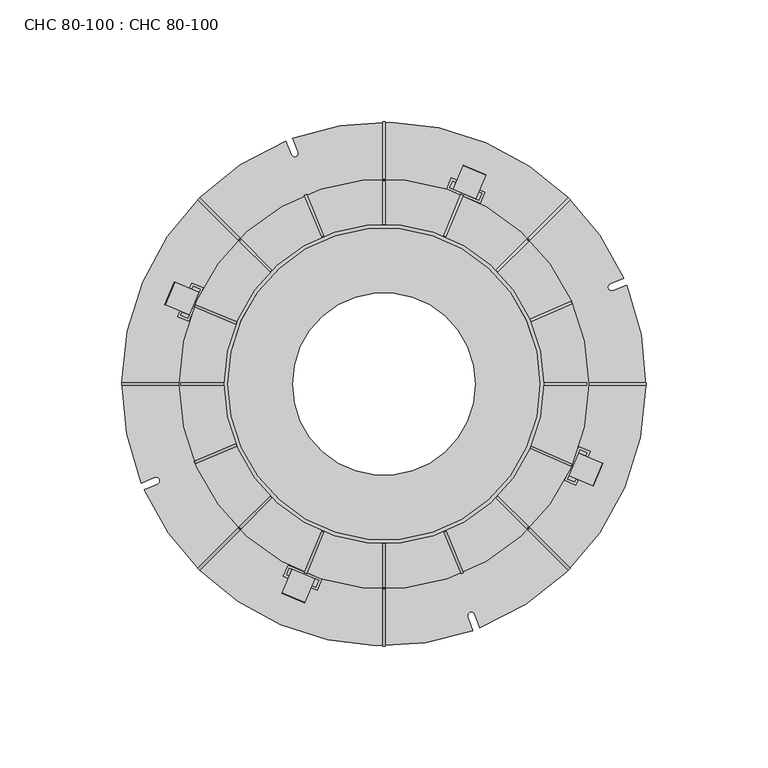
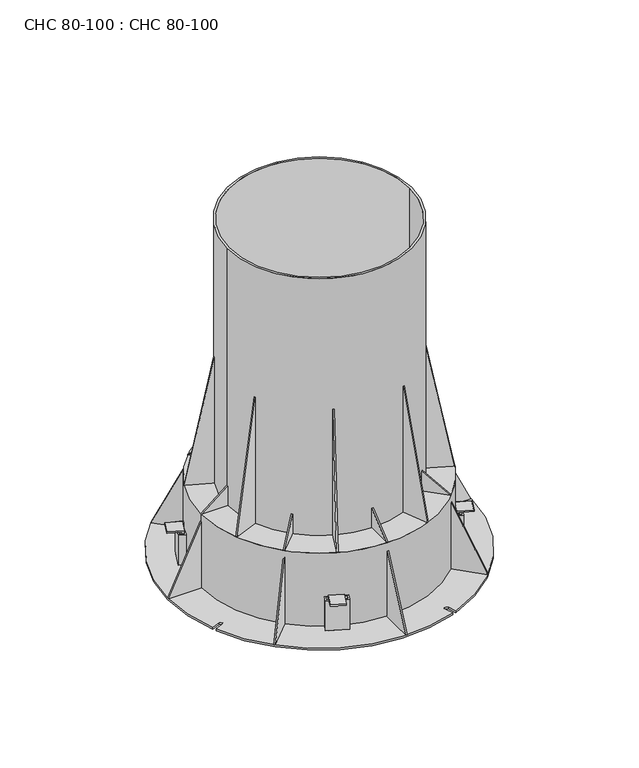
"""IFC4 building model written with IfcOpenShell, lengths in millimetres: proxy geometry, CHC 80-100 : CHC 80-100."""

import ifcopenshell
import ifcopenshell.guid

model = None  # the IFC model being written
_history = None  # IfcOwnerHistory: only IFC2X3 demands one
_inside = {}  # id of a spatial element -> (the spatial element, [elements in it])
_under = {}  # id of a project, library or spatial element -> (it, [spatial elements below it])
_declared = {}  # id of a project -> (the project, [libraries it declares])
_typed = {}  # id of a type object -> (the type object, [elements of that type])
_made_of = {}  # id of a material, layer set ... -> (it, [elements and type objects made of it])


def new_model(schema):
    """Start an empty IFC model of exactly this schema.

    Asked for "IFC4X3", IfcOpenShell would pick the latest addendum, in which some entities
    have other attributes; the version numbers below select the first issue.
    IFC2X3 requires an IfcOwnerHistory on every rooted entity: one is made here for all.
    """
    global model, _history
    if schema == "IFC4X3":
        model = ifcopenshell.file(schema_version=(4, 3, 0, 0))
    else:
        model = ifcopenshell.file(schema=schema)
    _inside.clear()
    _under.clear()
    _declared.clear()
    _typed.clear()
    _made_of.clear()
    _history = None
    if model.schema == "IFC2X3":
        org = make("IfcOrganization", Name="unknown")
        user = make(
            "IfcPersonAndOrganization",
            ThePerson=make("IfcPerson", FamilyName="unknown"),
            TheOrganization=org,
        )
        app = make(
            "IfcApplication",
            ApplicationDeveloper=org,
            Version="unknown",
            ApplicationFullName="unknown",
            ApplicationIdentifier="unknown",
        )
        _history = make(
            "IfcOwnerHistory",
            OwningUser=user,
            OwningApplication=app,
            ChangeAction="ADDED",
            CreationDate=0,
        )
    return model


def make(cls, **values):
    """One entity of the class cls with the attributes given. An attribute that is None is left unset."""
    return model.create_entity(
        cls, **{name: value for name, value in values.items() if value is not None}
    )


def rooted(cls, **values):
    """An entity with a GlobalId (a new one), such as an element, a storey or a relation."""
    return make(cls, GlobalId=ifcopenshell.guid.new(), OwnerHistory=_history, **values)


def si_unit(unit_type, name, prefix=None):
    """IfcSIUnit, for example si_unit("LENGTHUNIT", "METRE", prefix="MILLI")."""
    return make("IfcSIUnit", UnitType=unit_type, Prefix=prefix, Name=name)


def assignment(units):
    """IfcUnitAssignment: the units of a project."""
    return None if units is None else make("IfcUnitAssignment", Units=units)


def point(xyz):
    """IfcCartesianPoint."""
    return None if xyz is None else make("IfcCartesianPoint", Coordinates=xyz)


def direction(xyz):
    """IfcDirection."""
    return None if xyz is None else make("IfcDirection", DirectionRatios=xyz)


def frame(location, z_axis=None, x_axis=None):
    """IfcAxis2Placement3D, a coordinate frame: its origin and axes. An axis left out is left unset."""
    return make(
        "IfcAxis2Placement3D",
        Location=point(location),
        Axis=direction(z_axis),
        RefDirection=direction(x_axis),
    )


def frame_2d(location, x_axis=None):
    """IfcAxis2Placement2D, a coordinate frame in the plane: its origin and x axis."""
    return make(
        "IfcAxis2Placement2D", Location=point(location), RefDirection=direction(x_axis)
    )


def origin():
    """The frame at (0, 0, 0) with its axes left unset."""
    return frame((0.0, 0.0, 0.0))


def origin_with_axes():
    """The frame at (0, 0, 0) with the z axis (0, 0, 1) and the x axis (1, 0, 0) written out."""
    return frame((0.0, 0.0, 0.0), z_axis=(0.0, 0.0, 1.0), x_axis=(1.0, 0.0, 0.0))


def origin_2d():
    """The frame at (0, 0) in the plane with its x axis left unset."""
    return frame_2d((0.0, 0.0))


def place(relative_to, where):
    """IfcLocalPlacement: puts the frame where relative to a parent placement (None: the world)."""
    return make(
        "IfcLocalPlacement", PlacementRelTo=relative_to, RelativePlacement=where
    )


def context(
    kind, dimensions, precision=None, world=None, true_north=None, identifier=None
):
    """IfcGeometricRepresentationContext, for example the 3D "Model" context."""
    return make(
        "IfcGeometricRepresentationContext",
        ContextIdentifier=identifier,
        ContextType=kind,
        CoordinateSpaceDimension=dimensions,
        Precision=precision,
        WorldCoordinateSystem=world,
        TrueNorth=true_north,
    )


def project(units=None, contexts=None):
    """IfcProject with its units and contexts."""
    return rooted(
        "IfcProject",
        Name="project",
        RepresentationContexts=contexts,
        UnitsInContext=assignment(units),
    )


def spatial(cls, under=None, at=None, **own):
    """A site, building, storey or space (cls), placed at a placement, below another one or the project."""
    s = rooted(cls, ObjectPlacement=at, **own)
    if under is not None:
        _under.setdefault(under.id(), (under, []))[1].append(s)
    return s


def polyline(points):
    """IfcPolyline through the points."""
    return make("IfcPolyline", Points=[point(p) for p in points])


def circle_curve(where, radius):
    """IfcCircle in the frame where."""
    return make("IfcCircle", Position=where, Radius=radius)


def ellipse_curve(where, semi_axis1, semi_axis2):
    """IfcEllipse in the frame where."""
    return make(
        "IfcEllipse", Position=where, SemiAxis1=semi_axis1, SemiAxis2=semi_axis2
    )


def trimmed(basis, trim1, trim2, sense, master):
    """IfcTrimmedCurve: the piece of a basis curve between two trims."""
    return make(
        "IfcTrimmedCurve",
        BasisCurve=basis,
        Trim1=trim1,
        Trim2=trim2,
        SenseAgreement=sense,
        MasterRepresentation=master,
    )


def segment(curve, same_sense, transition):
    """IfcCompositeCurveSegment."""
    return make(
        "IfcCompositeCurveSegment",
        Transition=transition,
        SameSense=same_sense,
        ParentCurve=curve,
    )


def composite_curve(segments, self_intersect=None):
    """IfcCompositeCurve: segments joined end to end."""
    return make("IfcCompositeCurve", Segments=segments, SelfIntersect=self_intersect)


def outline(outer, holes=None, kind="AREA"):
    """IfcArbitraryClosedProfileDef: a profile drawn as a closed curve; with holes, ...WithVoids."""
    if holes is None:
        return make("IfcArbitraryClosedProfileDef", ProfileType=kind, OuterCurve=outer)
    return make(
        "IfcArbitraryProfileDefWithVoids",
        ProfileType=kind,
        OuterCurve=outer,
        InnerCurves=holes,
    )


def extrude(swept, where, along, depth):
    """IfcExtrudedAreaSolid: the profile swept, set in the frame where, extruded along a direction by depth."""
    return make(
        "IfcExtrudedAreaSolid",
        SweptArea=swept,
        Position=where,
        ExtrudedDirection=direction(along),
        Depth=depth,
    )


def shape(context_of_items, identifier, shape_type, items):
    """IfcShapeRepresentation: the items that make up one representation, for example the "Body"."""
    return make(
        "IfcShapeRepresentation",
        ContextOfItems=context_of_items,
        RepresentationIdentifier=identifier,
        RepresentationType=shape_type,
        Items=items,
    )


def source(mapping_origin, context_of_items, identifier, shape_type, items):
    """IfcRepresentationMap: a shape defined once, which mapped items show again and again."""
    return make(
        "IfcRepresentationMap",
        MappingOrigin=mapping_origin,
        MappedRepresentation=shape(context_of_items, identifier, shape_type, items),
    )


def transform(
    local_origin,
    x_axis=None,
    y_axis=None,
    z_axis=None,
    scale=None,
    scale2=None,
    scale3=None,
    uniform=True,
):
    """IfcCartesianTransformationOperator3D, or its non-uniform kind. x_axis, y_axis, z_axis: its Axis1, 2, 3."""
    if uniform:
        return make(
            "IfcCartesianTransformationOperator3D",
            Axis1=direction(x_axis),
            Axis2=direction(y_axis),
            LocalOrigin=point(local_origin),
            Scale=scale,
            Axis3=direction(z_axis),
        )
    return make(
        "IfcCartesianTransformationOperator3DnonUniform",
        Axis1=direction(x_axis),
        Axis2=direction(y_axis),
        LocalOrigin=point(local_origin),
        Scale=scale,
        Axis3=direction(z_axis),
        Scale2=scale2,
        Scale3=scale3,
    )


def mapped(mapping_source, mapping_target):
    """IfcMappedItem: shows the shape of a source again, moved by a transform."""
    return make(
        "IfcMappedItem", MappingSource=mapping_source, MappingTarget=mapping_target
    )


def made_of(thing, what):
    """Note that an element or type object is made of a material, layer set ...; save() writes the relation."""
    if what is not None:
        _made_of.setdefault(what.id(), (what, []))[1].append(thing)
    return thing


def element(
    cls,
    number,
    at=None,
    inside=None,
    cuts=None,
    type_object=None,
    material=None,
    context=None,
    identifier="Body",
    shape_type=None,
    held_by="IfcProductDefinitionShape",
    body=None,
    shapes=None,
    **own,
):
    """One element of the class cls, such as IfcWall. Its Tag is "e" and its number.

    at: its placement. inside: the storey or other place that contains it. cuts: it is an
    opening in that element (IfcRelVoidsElement). A single representation is given by context,
    identifier, shape_type and body (its items); several are given by shapes. held_by: the class
    of the entity that holds the representations. save() writes the other relations.
    """
    e = rooted(cls, Tag="e%d" % number, ObjectPlacement=at, **own)
    if body is not None:
        shapes = [shape(context, identifier, shape_type, body)]
    if shapes is not None:
        e.Representation = make(held_by, Representations=shapes)
    if inside is not None:
        _inside.setdefault(inside.id(), (inside, []))[1].append(e)
    if cuts is not None:
        rooted(
            "IfcRelVoidsElement", RelatingBuildingElement=cuts, RelatedOpeningElement=e
        )
    if type_object is not None:
        _typed.setdefault(type_object.id(), (type_object, []))[1].append(e)
    return made_of(e, material)


def aggregate(whole, parts):
    """IfcRelAggregates: a whole, such as a stair, and the parts it consists of."""
    return rooted("IfcRelAggregates", RelatingObject=whole, RelatedObjects=parts)


def save(model, path):
    """Write the relations noted so far, then the file.

    IfcRelAggregates (storeys below a building ...), IfcRelContainedInSpatialStructure (elements
    in a storey), IfcRelDefinesByType, IfcRelAssociatesMaterial and IfcRelDeclares: one each for
    every whole, place, type object, material and project.
    """
    for whole, parts in _under.values():
        aggregate(whole, parts)
    for where, things in _inside.values():
        rooted(
            "IfcRelContainedInSpatialStructure",
            RelatedElements=things,
            RelatingStructure=where,
        )
    for kind, things in _typed.values():
        rooted("IfcRelDefinesByType", RelatedObjects=things, RelatingType=kind)
    for what, things in _made_of.values():
        rooted("IfcRelAssociatesMaterial", RelatedObjects=things, RelatingMaterial=what)
    for by, libraries in _declared.values():
        rooted("IfcRelDeclares", RelatingContext=by, RelatedDefinitions=libraries)
    model.write(path)


def plane_surface(at):
    """IfcPlane: the flat surface through the origin of the frame at, square to its z axis."""
    return make("IfcPlane", Position=at)


def extruded_surface(curve, direction_of_extrusion, depth):
    """IfcSurfaceOfLinearExtrusion: the curve pushed along a direction by depth."""
    return make(
        "IfcSurfaceOfLinearExtrusion",
        SweptCurve=make("IfcArbitraryOpenProfileDef", ProfileType="CURVE", Curve=curve),
        ExtrudedDirection=direction(direction_of_extrusion),
        Depth=depth,
    )


def advanced_brep(points, edges, surfaces, faces):
    """IfcAdvancedBrep: a solid bounded by faces that lie on surfaces and meet in shared edges.

    An edge is (start, end): straight between two places in points (the first is 0);
    or (start, end, curve); or (start, end, curve, False) where it runs against its curve.
    A face is (place in surfaces, loops), or (place, loops, False) where it looks against
    its surface's normal. A loop lists edges by number (the first is 1), with a minus sign
    where the edge is run from its end to its start. The first loop is the outer one.
    """
    corners = [point(p) for p in points]
    vertices = [make("IfcVertexPoint", VertexGeometry=c) for c in corners]
    made = []
    for start, end, *more in edges:
        made.append(
            make(
                "IfcEdgeCurve",
                EdgeStart=vertices[start],
                EdgeEnd=vertices[end],
                EdgeGeometry=more[0] if more else make("IfcPolyline", Points=[corners[start], corners[end]]),
                SameSense=more[1] if len(more) > 1 else True,
            )
        )
    hull = []
    for where, loops, *sense in faces:
        bounds = []
        for j, loop in enumerate(loops):
            ring = [make("IfcOrientedEdge", EdgeElement=made[abs(k) - 1], Orientation=k > 0) for k in loop]
            bounds.append(
                make(
                    "IfcFaceOuterBound" if j == 0 else "IfcFaceBound",
                    Bound=make("IfcEdgeLoop", EdgeList=ring),
                    Orientation=True,
                )
            )
        hull.append(make("IfcAdvancedFace", Bounds=bounds, FaceSurface=surfaces[where], SameSense=sense[0] if sense else True))
    return make("IfcAdvancedBrep", Outer=make("IfcClosedShell", CfsFaces=hull))


def chc_80_100_chc_80_100_d89dd4f8(model_context):
    return source(origin(), model_context, "Body", "SolidModel", [
        extrude(outline(composite_curve([segment(trimmed(circle_curve(origin_2d(), 84.0), [point((-84.0, 0.0))], [point((84.0, 0.0))], False, "CARTESIAN"), True, "CONTINUOUS"), segment(trimmed(circle_curve(origin_2d(), 84.0), [point((84.0, 0.0))], [point((-84.0, 0.0))], False, "CARTESIAN"), True, "CONTINUOUS")], self_intersect=False), holes=[composite_curve([segment(trimmed(circle_curve(origin_2d(), 64.0), [point((-64.0, 0.0))], [point((64.0, 0.0))], True, "CARTESIAN"), True, "CONTINUOUS"), segment(trimmed(circle_curve(origin_2d(), 64.0), [point((64.0, 0.0))], [point((-64.0, 0.0))], True, "CARTESIAN"), True, "CONTINUOUS")], self_intersect=False)]), frame((0.0, 0.0, 1.5), z_axis=(0.0, 0.0, 1.0), x_axis=(1.0, 0.0, 0.0)), (0.0, 0.0, 1.0), 55.0),
        extrude(outline(composite_curve([segment(trimmed(circle_curve(origin_2d(), 61.0), [point((-61.0, 0.0))], [point((61.0, 0.0))], False, "CARTESIAN"), True, "CONTINUOUS"), segment(trimmed(circle_curve(origin_2d(), 61.0), [point((61.0, 0.0))], [point((-61.0, 0.0))], False, "CARTESIAN"), True, "CONTINUOUS")], self_intersect=False), holes=[composite_curve([segment(trimmed(circle_curve(origin_2d(), 47.0), [point((-47.0, 0.0))], [point((47.0, 0.0))], True, "CARTESIAN"), True, "CONTINUOUS"), segment(trimmed(circle_curve(origin_2d(), 47.0), [point((47.0, 0.0))], [point((-47.0, 0.0))], True, "CARTESIAN"), True, "CONTINUOUS")], self_intersect=False)]), frame((0.0, 0.0, 1.5), z_axis=(0.0, 0.0, 1.0), x_axis=(1.0, 0.0, 0.0)), (0.0, 0.0, 1.0), 37.5),
        extrude(outline(composite_curve([segment(trimmed(circle_curve(origin_2d(), 80.0), [point((71.5960711, -35.693173))], [point((-26.6217842, -75.4405766))], False, "CARTESIAN"), True, "CONTINUOUS"), segment(polyline([(-26.6217842, -75.4405766), (-29.6268561, -82.5495981), (-38.8377329, -78.6560458), (-35.8254529, -71.5299722)]), True, "CONTINUOUS"), segment(trimmed(circle_curve(origin_2d(), 80.0), [point((-35.8254529, -71.5299722))], [point((-75.4862527, 26.4919924))], False, "CARTESIAN"), True, "CONTINUOUS"), segment(polyline([(-75.4862527, 26.4919924), (-82.6150756, 29.5065376), (-78.7203143, 38.7169032), (-71.5914914, 35.702358)]), True, "CONTINUOUS"), segment(trimmed(circle_curve(origin_2d(), 80.0), [point((-71.5914914, 35.702358))], [point((26.8983583, 75.3424072))], False, "CARTESIAN"), True, "CONTINUOUS"), segment(polyline([(26.8983583, 75.3424072), (29.4961351, 82.6187902), (38.706991, 78.7251887), (35.6933434, 71.5959862)]), True, "CONTINUOUS"), segment(trimmed(circle_curve(origin_2d(), 80.0), [point((35.6933434, 71.5959862))], [point((75.4896508, -26.4823078))], False, "CARTESIAN"), True, "CONTINUOUS"), segment(polyline([(75.4896508, -26.4823078), (82.5970475, -29.4867177), (78.7034678, -38.6975829), (71.5960711, -35.693173)]), True, "CONTINUOUS")], self_intersect=False), holes=[composite_curve([segment(trimmed(circle_curve(origin_2d(), 59.0), [point((-59.0, 0.0))], [point((59.0, 0.0))], True, "CARTESIAN"), True, "CONTINUOUS"), segment(trimmed(circle_curve(origin_2d(), 59.0), [point((59.0, 0.0))], [point((-59.0, 0.0))], True, "CARTESIAN"), True, "CONTINUOUS")], self_intersect=False)]), frame((0.0, 0.0, 0.5), z_axis=(0.0, 0.0, 1.0), x_axis=(1.0, 0.0, 0.0)), (0.0, 0.0, 1.0), 1.0),
        extrude(outline(polyline([(51.5, -84.0), (1.5, -107.5), (1.5, -84.0), (51.5, -84.0)])), frame((0.0, -0.5, 0.0), z_axis=(0.0, 1.0, 0.0), x_axis=(0.0, 0.0, 1.0)), (0.0, 0.0, 1.0), 1.0),
        extrude(outline(polyline([(-55.2471719, -1e-07), (0.0, 0.0), (-9.9959868, -21.268057), (-55.2471719, -1e-07)])), frame((-76.3675324, 75.6604256, 1.5), z_axis=(0.7071067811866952, 0.7071067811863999, 0.0), x_axis=(-0.30077574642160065, 0.30077574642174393, -0.9050237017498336)), (0.0, 0.0, 1.0), 1.0),
        extrude(outline(polyline([(50.0, 0.0), (0.0, -23.5), (0.0, 0.0), (50.0, 0.0)])), frame((-0.5, 84.0, 1.5), z_axis=(1.0, -2.8820179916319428e-11, -9.285588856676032e-12), x_axis=(9.28558885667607e-12, 0.0, 1.0)), (0.0, 0.0, 1.0), 1.0),
        extrude(outline(polyline([(-50.0, 0.0), (0.0, 0.0), (0.0, -23.4999999), (-50.0, 0.0)])), frame((59.7491736, 59.0420668, 1.5), z_axis=(-0.7071067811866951, 0.7071067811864, 0.0), x_axis=(0.0, 0.0, -1.0)), (0.0, 0.0, 1.0), 1.0),
        extrude(outline(polyline([(51.5, 83.9980916), (1.5, 83.9980916), (1.5, 107.4980916), (51.5, 83.9980916)])), frame((0.0, -0.5, 0.0), z_axis=(0.0, 1.0, 0.0), x_axis=(0.0, 0.0, 1.0)), (0.0, 0.0, 1.0), 1.0),
        extrude(outline(polyline([(0.0, 0.0), (-45.2511851, -21.268057), (-55.2471719, 0.0), (0.0, 0.0)])), frame((-0.5, -84.0, 51.5), z_axis=(1.0, 2.8820179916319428e-11, -9.28558885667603e-12), x_axis=(-3.855306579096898e-12, 0.42536113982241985, 0.9050237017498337)), (0.0, 0.0, 1.0), 1.0),
        extrude(outline(polyline([(55.2471719, -1e-07), (9.9959868, -21.268057), (0.0, 0.0), (55.2471719, -1e-07)])), frame((75.6604256, -76.3675324, 1.5), z_axis=(0.7071067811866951, 0.7071067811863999, 0.0), x_axis=(-0.3007757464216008, 0.3007757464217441, 0.9050237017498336)), (0.0, 0.0, 1.0), 1.0),
        extrude(outline(polyline([(50.0, 0.0), (0.0, -23.5000001), (0.0, 0.0), (50.0, 0.0)])), frame((-59.0434162, -59.750523, 1.5), z_axis=(-0.7071067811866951, 0.7071067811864, 0.0), x_axis=(0.0, 0.0, 1.0)), (0.0, 0.0, 1.0), 1.0),
        extrude(outline(polyline([(-96.7845546, 0.0), (0.0, 0.0), (-3.5362047, -18.1588892), (-96.7845546, 0.0)])), frame((-77.7972014, 31.6835308, 56.5), z_axis=(0.38269150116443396, 0.923876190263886, 9.28558618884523e-12), x_axis=(-0.17659542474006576, 0.07315002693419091, -0.9815615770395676)), (0.0, 0.0, 1.0), 1.0),
        extrude(outline(polyline([(95.0, 0.0), (0.0, -18.5), (0.0, 0.0), (95.0, 0.0)])), frame((-60.3228004, -25.5276142, 56.5), z_axis=(-0.3826915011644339, 0.923876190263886, -9.285588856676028e-12), x_axis=(-3.5549335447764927e-12, 8.5781472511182e-12, 1.0)), (0.0, 0.0, 1.0), 1.0),
        extrude(outline(polyline([(0.0, 0.0), (-93.2483498, -18.1588892), (-96.7845546, 0.0), (0.0, 0.0)])), frame((25.3886776, 60.3768632, 151.5), z_axis=(-0.923876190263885, 0.38269150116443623, -9.285600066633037e-12), x_axis=(-0.07315002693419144, -0.17659542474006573, 0.9815615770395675)), (0.0, 0.0, 1.0), 1.0),
        extrude(outline(polyline([(0.0, 0.0), (-93.2483498, -18.1588892), (-96.7845546, 0.0), (0.0, 0.0)])), frame((60.2959731, 25.5860436, 151.5), z_axis=(-0.3997315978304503, 0.9166322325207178, -9.285600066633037e-12), x_axis=(-0.17521076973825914, -0.07640717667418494, 0.9815615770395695)), (0.0, 0.0, 1.0), 1.0),
        extrude(outline(polyline([(95.0, 0.0), (0.0, -18.5), (0.0, 0.0), (95.0, 0.0)])), frame((-25.5276142, 60.3228004, 56.5), z_axis=(0.9238761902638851, 0.3826915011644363, -9.285588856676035e-12), x_axis=(8.578147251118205e-12, 3.5549335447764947e-12, 1.0)), (0.0, 0.0, 1.0), 1.0),
        extrude(outline(polyline([(-95.0, 0.0), (0.0, 0.0), (0.0, -18.5), (-95.0, 0.0)])), frame((24.603738, -60.7054919, 56.5), z_axis=(0.9238761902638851, 0.3826915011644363, 9.285588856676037e-12), x_axis=(8.578147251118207e-12, 3.5549335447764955e-12, -1.0)), (0.0, 0.0, 1.0), 1.0),
        extrude(outline(polyline([(-95.0, 0.0), (0.0, 0.0), (0.0, -18.5), (-95.0, 0.0)])), frame((59.9427488, -26.4027935, 56.5), z_axis=(0.3997315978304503, 0.9166322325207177, 9.285588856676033e-12), x_axis=(3.710334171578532e-12, 8.512084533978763e-12, -1.0)), (0.0, 0.0, 1.0), 1.0),
        extrude(outline(polyline([(0.0, 0.0), (96.7845546, 0.0), (93.2483498, -18.1588892), (0.0, 0.0)])), frame((-24.603738, -60.7054919, 151.5), z_axis=(-0.9238761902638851, 0.38269150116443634, 9.285600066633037e-12), x_axis=(-0.07315002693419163, -0.1765954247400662, -0.9815615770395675)), (0.0, 0.0, 1.0), 1.0),
        extrude(outline(polyline([(0.0, 0.0), (-9.4470294, -11.6513362), (-23.8170107, 0.0), (0.0, 0.0)])), frame((45.9619408, -46.6690476, 71.5), z_axis=(0.7071067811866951, 0.7071067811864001, 0.0), x_axis=(-0.5492492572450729, 0.5492492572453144, 0.6298019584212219)), (0.0, 0.0, 1.0), 1.0),
        extrude(outline(polyline([(15.0, 0.0), (0.0, -18.4999999), (0.0, 0.0), (15.0, 0.0)])), frame((-45.9619408, -46.6690476, 56.5), z_axis=(-0.7071067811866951, 0.7071067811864, 0.0), x_axis=(0.0, 0.0, 1.0)), (0.0, 0.0, 1.0), 1.0),
        extrude(outline(polyline([(-15.0, 0.0), (0.0, 0.0), (0.0, -18.5000001), (-15.0, 0.0)])), frame((46.6676981, 45.9605913, 56.5), z_axis=(-0.7071067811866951, 0.7071067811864, 0.0), x_axis=(0.0, 0.0, -1.0)), (0.0, 0.0, 1.0), 1.0),
        extrude(outline(polyline([(0.0, 0.0), (23.8170107, 0.0), (9.4470294, -11.6513362), (0.0, 0.0)])), frame((-46.6690476, 45.9619408, 71.5), z_axis=(0.7071067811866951, 0.7071067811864, 0.0), x_axis=(-0.5492492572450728, 0.5492492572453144, -0.6298019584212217)), (0.0, 0.0, 1.0), 1.0),
        extrude(outline(polyline([(71.5, -65.5), (56.5, -84.0), (56.5, -65.5), (71.5, -65.5)])), frame((0.0, -0.5, 0.0), z_axis=(0.0, 1.0, 0.0), x_axis=(0.0, 0.0, 1.0)), (0.0, 0.0, 1.0), 1.0),
        extrude(outline(polyline([(71.5, 65.4980916), (56.5, 65.4980916), (56.5, 83.9980916), (71.5, 65.4980916)])), frame((0.0, -0.5, 0.0), z_axis=(0.0, 1.0, 0.0), x_axis=(0.0, 0.0, 1.0)), (0.0, 0.0, 1.0), 1.0),
        extrude(outline(polyline([(0.0, 0.0), (-9.4470294, -11.6513362), (-23.8170107, 0.0), (0.0, 0.0)])), frame((-0.5, -65.5, 71.5), z_axis=(1.0, 2.8820179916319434e-11, -9.285588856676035e-12), x_axis=(-1.6538158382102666e-11, 0.7767557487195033, 0.6298019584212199)), (0.0, 0.0, 1.0), 1.0),
        extrude(outline(polyline([(15.0, 0.0), (0.0, -18.5), (0.0, 0.0), (15.0, 0.0)])), frame((-0.5, 65.5, 56.5), z_axis=(1.0, -2.8820179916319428e-11, -9.285588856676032e-12), x_axis=(9.28558885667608e-12, 0.0, 1.0)), (0.0, 0.0, 1.0), 1.0),
        advanced_brep(
        [(-28.4248912, -79.885, 25.4), (-32.5131291, -89.5564172, 25.4), (-32.5131291, -89.5564172, 24.4), (-28.8142472, -80.8060873, 24.4), (-28.8142472, -80.8060873, 1.0), (-28.4248912, -79.885, 1.0), (-37.6357648, -75.9914401, 25.4), (-37.6357648, -75.9914401, 1.0), (-38.0251208, -76.9125274, 1.0), (-38.0251208, -76.9125274, 24.4), (-41.7240027, -85.6628573, 24.4), (-41.7240027, -85.6628573, 25.4)],
        [
            (0, 1),
            (1, 2, ellipse_curve(frame((-32.5131291, -89.5564172, 24.9), z_axis=(0.9210873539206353, -0.38935598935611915, 0.0), x_axis=(0.0, 0.0, 1.0)), 0.5, 0.25)),
            (2, 3),
            (3, 4),
            (4, 5),
            (5, 0),
            (6, 7),
            (7, 8),
            (8, 9),
            (9, 10),
            (10, 11, ellipse_curve(frame((-41.7240027, -85.6628573, 24.9), z_axis=(-0.9210873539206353, 0.38935598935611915, 0.0), x_axis=(0.0, 0.0, 1.0)), 0.5, 0.25)),
            (11, 6),
            (0, 6),
            (11, 1),
            (10, 2),
            (9, 3),
            (8, 4),
            (7, 5),
        ],
        [
            plane_surface(frame((-28.4248912, -79.885, 25.4), z_axis=(0.9210873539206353, -0.38935598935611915, 0.0), x_axis=(-0.38935598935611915, -0.9210873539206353, 0.0))),
            plane_surface(frame((-37.6357648, -75.9914401, 25.4), z_axis=(-0.9210873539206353, 0.38935598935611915, 0.0), x_axis=(0.38935598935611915, 0.9210873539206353, 0.0))),
            plane_surface(frame((-28.4248912, -79.885, 25.4), z_axis=(0.0, 0.0, 1.0000000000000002), x_axis=(-0.9210873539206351, 0.3893559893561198, 0.0))),
            extruded_surface(trimmed(ellipse_curve(frame((-50.9348762, -81.7692974, 24.9), z_axis=(0.9210873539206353, -0.38935598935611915, 0.0), x_axis=(0.0, 0.0, 1.0)), 0.5, 0.25), [point((-50.9348762, -81.7692974, 25.4))], [point((-50.9348762, -81.7692974, 24.4))], True, "CARTESIAN"), (9.210873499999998, -3.8935598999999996, 0.0), 9.999999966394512),
            plane_surface(frame((-32.5131291, -89.5564172, 24.4), z_axis=(0.0, 0.0, -1.0), x_axis=(-0.9210873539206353, 0.3893559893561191, 0.0))),
            plane_surface(frame((-28.8142472, -80.8060873, 24.4), z_axis=(-0.38935598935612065, -0.9210873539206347, 0.0), x_axis=(-0.9210873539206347, 0.38935598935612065, 0.0))),
            plane_surface(frame((-28.8142472, -80.8060873, 1.0), z_axis=(0.0, 0.0, -1.0), x_axis=(-0.9210873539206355, 0.3893559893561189, 0.0))),
            plane_surface(frame((-28.4248912, -79.885, 1.0), z_axis=(0.3893559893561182, 0.9210873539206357, 0.0), x_axis=(-0.9210873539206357, 0.3893559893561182, 0.0))),
        ],
        [
            (0, [[1, 2, 3, 4, 5, 6]]),
            (1, [[7, 8, 9, 10, 11, 12]]),
            (2, [[-1, 13, -12, 14]]),
            (3, [[-2, -14, -11, 15]]),
            (4, [[-3, -15, -10, 16]]),
            (5, [[-4, -16, -9, 17]]),
            (6, [[-5, -17, -8, 18]]),
            (7, [[-6, -18, -7, -13]]),
        ],
    ),
        extrude(outline(polyline([(-39.3045432, -74.2371395), (-25.4720897, -80.0391419), (-27.4060905, -84.6499598), (-41.238544, -78.8479573), (-39.3045432, -74.2371395)]), holes=[polyline([(-38.7691798, -75.5461033), (-39.9295802, -78.3125939), (-27.9414539, -83.340996), (-26.7810534, -80.5745053), (-38.7691798, -75.5461033)])]), frame((0.0, 0.0, 1.5), z_axis=(0.0, 0.0, 1.0), x_axis=(1.0, 0.0, 0.0)), (0.0, 0.0, 1.0), 22.5),
        extrude(outline(polyline([(25.6787324, 79.984442), (27.6277254, 84.5889427), (41.4412273, 78.7419637), (39.4922343, 74.137463), (25.6787324, 79.984442)]), holes=[polyline([(26.9894311, 80.5155435), (38.9611328, 75.4481618), (40.1305286, 78.2108622), (28.1588269, 83.2782439), (26.9894311, 80.5155435)])]), frame((0.0, 0.0, 1.5), z_axis=(0.0, 0.0, 1.0), x_axis=(1.0, 0.0, 0.0)), (0.0, 0.0, 1.0), 22.5),
        advanced_brep(
        [(79.9271757, -28.371086, 25.4), (89.5985841, -32.4593446, 25.4), (89.5985841, -32.4593446, 24.4), (80.8482622, -28.760444, 24.4), (80.8482622, -28.760444, 1.0), (79.9271757, -28.371086, 1.0), (76.033596, -37.5819512, 25.4), (76.033596, -37.5819512, 1.0), (76.9546826, -37.9713092, 1.0), (76.9546826, -37.9713092, 24.4), (85.7050045, -41.6702098, 24.4), (85.7050045, -41.6702098, 25.4)],
        [
            (0, 1),
            (1, 2, ellipse_curve(frame((89.5985841, -32.4593446, 24.9), z_axis=(0.38935796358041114, 0.9210865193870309, 0.0), x_axis=(0.0, 0.0, 1.0)), 0.5, 0.25)),
            (2, 3),
            (3, 4),
            (4, 5),
            (5, 0),
            (6, 7),
            (7, 8),
            (8, 9),
            (9, 10),
            (10, 11, ellipse_curve(frame((85.7050045, -41.6702098, 24.9), z_axis=(-0.38935796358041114, -0.9210865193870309, 0.0), x_axis=(0.0, 0.0, 1.0)), 0.5, 0.25)),
            (11, 6),
            (0, 6),
            (11, 1),
            (10, 2),
            (9, 3),
            (8, 4),
            (7, 5),
        ],
        [
            plane_surface(frame((79.9271757, -28.371086, 25.4), z_axis=(0.3893579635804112, 0.921086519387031, 0.0), x_axis=(0.921086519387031, -0.3893579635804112, 0.0))),
            plane_surface(frame((76.033596, -37.5819512, 25.4), z_axis=(-0.3893579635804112, -0.921086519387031, 0.0), x_axis=(-0.921086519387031, 0.3893579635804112, 0.0))),
            plane_surface(frame((79.9271757, -28.371086, 25.4), z_axis=(0.0, 0.0, 1.0), x_axis=(-0.3893579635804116, -0.9210865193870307, 0.0))),
            extruded_surface(trimmed(ellipse_curve(frame((81.8114249, -50.881075, 24.9), z_axis=(0.38935796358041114, 0.9210865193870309, 0.0), x_axis=(0.0, 0.0, 1.0)), 0.5, 0.25), [point((81.8114249, -50.881075, 25.4))], [point((81.8114249, -50.881075, 24.4))], True, "CARTESIAN"), (3.8935795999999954, 9.2108652, 0.0), 9.999999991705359),
            plane_surface(frame((89.5985841, -32.4593446, 24.4), z_axis=(0.0, 0.0, -1.0000000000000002), x_axis=(-0.38935796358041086, -0.9210865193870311, 0.0))),
            plane_surface(frame((80.8482622, -28.760444, 24.4), z_axis=(0.9210865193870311, -0.3893579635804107, 0.0), x_axis=(-0.3893579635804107, -0.9210865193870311, 0.0))),
            plane_surface(frame((80.8482622, -28.760444, 1.0), z_axis=(0.0, 0.0, -1.0), x_axis=(-0.3893579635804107, -0.9210865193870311, 0.0))),
            plane_surface(frame((79.9271757, -28.371086, 1.0), z_axis=(-0.9210865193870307, 0.3893579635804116, 0.0), x_axis=(-0.3893579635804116, -0.9210865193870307, 0.0))),
        ],
        [
            (0, [[1, 2, 3, 4, 5, 6]]),
            (1, [[7, 8, 9, 10, 11, 12]]),
            (2, [[-1, 13, -12, 14]]),
            (3, [[-2, -14, -11, 15]]),
            (4, [[-3, -15, -10, 16]]),
            (5, [[-4, -16, -9, 17]]),
            (6, [[-5, -17, -8, 18]]),
            (7, [[-6, -18, -7, -13]]),
        ],
    ),
        extrude(outline(polyline([(79.9720389, -25.6996693), (84.5765395, -27.6486622), (78.7295606, -41.4621642), (74.1250599, -39.5131712), (79.9720389, -25.6996693)]), holes=[polyline([(80.5031404, -27.010368), (75.4357586, -38.9820697), (78.198459, -40.1514655), (83.2658408, -28.1797638), (80.5031404, -27.010368)])]), frame((0.0, 0.0, 1.5), z_axis=(0.0, 0.0, 1.0), x_axis=(1.0, 0.0, 0.0)), (0.0, 0.0, 1.0), 22.5),
        advanced_brep(
        [(-79.9259795, 28.3694072, 25.4), (-89.5968634, 32.4589065, 25.4), (-89.5968634, 32.4589065, 24.4), (-80.8470161, 28.7588833, 24.4), (-80.8470161, 28.7588833, 1.0), (-79.9259795, 28.3694072, 1.0), (-76.0312183, 37.5797727, 25.4), (-76.0312183, 37.5797727, 1.0), (-76.9522548, 37.9692489, 1.0), (-76.9522548, 37.9692489, 24.4), (-85.7021021, 41.6692721, 24.4), (-85.7021021, 41.6692721, 25.4)],
        [
            (0, 1),
            (1, 2, ellipse_curve(frame((-89.5968634, 32.4589065, 24.9), z_axis=(-0.3894761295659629, -0.921036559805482, 0.0), x_axis=(0.0, 0.0, 1.0)), 0.5, 0.25)),
            (2, 3),
            (3, 4),
            (4, 5),
            (5, 0),
            (6, 7),
            (7, 8),
            (8, 9),
            (9, 10),
            (10, 11, ellipse_curve(frame((-85.7021021, 41.6692721, 24.9), z_axis=(0.3894761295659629, 0.921036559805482, 0.0), x_axis=(0.0, 0.0, 1.0)), 0.5, 0.25)),
            (11, 6),
            (0, 6),
            (11, 1),
            (10, 2),
            (9, 3),
            (8, 4),
            (7, 5),
        ],
        [
            plane_surface(frame((-79.9259795, 28.3694072, 25.4), z_axis=(-0.38947612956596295, -0.921036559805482, 0.0), x_axis=(-0.921036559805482, 0.38947612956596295, 0.0))),
            plane_surface(frame((-76.0312183, 37.5797727, 25.4), z_axis=(0.38947612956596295, 0.921036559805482, 0.0), x_axis=(0.921036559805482, -0.38947612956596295, 0.0))),
            plane_surface(frame((-79.9259795, 28.3694072, 25.4), z_axis=(0.0, 0.0, 1.0), x_axis=(0.3894761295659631, 0.9210365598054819, 0.0))),
            extruded_surface(trimmed(ellipse_curve(frame((-81.8073408, 50.8796377, 24.9), z_axis=(-0.3894761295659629, -0.921036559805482, 0.0), x_axis=(0.0, 0.0, 1.0)), 0.5, 0.25), [point((-81.8073408, 50.8796377, 25.4))], [point((-81.8073408, 50.8796377, 24.4))], True, "CARTESIAN"), (-3.894761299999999, -9.210365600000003, 0.0), 10.000000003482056),
            plane_surface(frame((-89.5968634, 32.4589065, 24.4), z_axis=(0.0, 0.0, -1.0), x_axis=(0.389476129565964, 0.9210365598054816, 0.0))),
            plane_surface(frame((-80.8470161, 28.7588833, 24.4), z_axis=(-0.9210365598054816, 0.38947612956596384, 0.0), x_axis=(0.38947612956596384, 0.9210365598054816, 0.0))),
            plane_surface(frame((-80.8470161, 28.7588833, 1.0), z_axis=(0.0, 0.0, -1.0000000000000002), x_axis=(0.3894761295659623, 0.9210365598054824, 0.0))),
            plane_surface(frame((-79.9259795, 28.3694072, 1.0), z_axis=(0.9210365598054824, -0.3894761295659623, 0.0), x_axis=(0.3894761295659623, 0.9210365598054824, 0.0))),
        ],
        [
            (0, [[1, 2, 3, 4, 5, 6]]),
            (1, [[7, 8, 9, 10, 11, 12]]),
            (2, [[-1, 13, -12, 14]]),
            (3, [[-2, -14, -11, 15]]),
            (4, [[-3, -15, -10, 16]]),
            (5, [[-4, -16, -9, 17]]),
            (6, [[-5, -17, -8, 18]]),
            (7, [[-6, -18, -7, -13]]),
        ],
    ),
        extrude(outline(polyline([(-74.134092, 39.498562), (-79.976234, 25.6830136), (-84.5814168, 27.6303942), (-78.7392748, 41.4459426), (-74.134092, 39.498562)]), holes=[polyline([(-75.4446047, 38.9670015), (-78.2077144, 40.1354299), (-83.2709041, 28.1619546), (-80.5077944, 26.9935262), (-75.4446047, 38.9670015)])]), frame((0.0, 0.0, 1.5), z_axis=(0.0, 0.0, 1.0), x_axis=(1.0, 0.0, 0.0)), (0.0, 0.0, 1.0), 22.5),
        extrude(outline(composite_curve([segment(trimmed(circle_curve(origin_2d(), 64.0), [point((-64.0, 0.0))], [point((64.0, 0.0))], False, "CARTESIAN"), True, "CONTINUOUS"), segment(trimmed(circle_curve(origin_2d(), 64.0), [point((64.0, 0.0))], [point((-64.0, 0.0))], False, "CARTESIAN"), True, "CONTINUOUS")], self_intersect=False), holes=[composite_curve([segment(trimmed(circle_curve(origin_2d(), 37.5), [point((-37.5, 0.0))], [point((37.5, 0.0))], True, "CARTESIAN"), True, "CONTINUOUS"), segment(trimmed(circle_curve(origin_2d(), 37.5), [point((37.5, 0.0))], [point((-37.5, 0.0))], True, "CARTESIAN"), True, "CONTINUOUS")], self_intersect=False)]), frame((0.0, 0.0, 47.8963391), z_axis=(0.0, 0.0, 1.0), x_axis=(1.0, 0.0, 0.0)), (0.0, 0.0, 1.0), 1.0),
        extrude(outline(composite_curve([segment(trimmed(circle_curve(origin_2d(), 65.5), [point((-65.5, 0.0))], [point((65.5, 0.0))], False, "CARTESIAN"), True, "CONTINUOUS"), segment(trimmed(circle_curve(origin_2d(), 65.5), [point((65.5, 0.0))], [point((-65.5, 0.0))], False, "CARTESIAN"), True, "CONTINUOUS")], self_intersect=False), holes=[composite_curve([segment(trimmed(circle_curve(origin_2d(), 64.0), [point((-64.0, 0.0))], [point((64.0, 0.0))], True, "CARTESIAN"), True, "CONTINUOUS"), segment(trimmed(circle_curve(origin_2d(), 64.0), [point((64.0, 0.0))], [point((-64.0, 0.0))], True, "CARTESIAN"), True, "CONTINUOUS")], self_intersect=False)]), frame((0.0, 0.0, 56.5), z_axis=(0.0, 0.0, 1.0), x_axis=(1.0, 0.0, 0.0)), (0.0, 0.0, 1.0), 193.5),
        extrude(outline(composite_curve([segment(polyline([(-93.9409246, -38.320876), (-99.5308656, -40.6184293)]), True, "CONTINUOUS"), segment(trimmed(circle_curve(origin_2d(), 107.5), [point((-99.5308656, -40.6184293))], [point((-40.2900274, 99.6642548))], False, "CARTESIAN"), True, "CONTINUOUS"), segment(polyline([(-40.2900274, 99.6642548), (-38.0204528, 94.050075)]), True, "CONTINUOUS"), segment(trimmed(circle_curve(frame_2d((-36.6297888, 94.6122614)), 1.5), [point((-38.0204528, 94.050075))], [point((-35.2391248, 95.1744479))], True, "CARTESIAN"), True, "CONTINUOUS"), segment(polyline([(-35.2391248, 95.1744479), (-37.4930074, 100.7498109)]), True, "CONTINUOUS"), segment(trimmed(circle_curve(origin_2d(), 107.5), [point((-37.4930074, 100.7498109))], [point((98.3625065, 43.3712729))], False, "CARTESIAN"), True, "CONTINUOUS"), segment(polyline([(98.3625065, 43.3712729), (92.8067098, 41.0877534)]), True, "CONTINUOUS"), segment(trimmed(circle_curve(frame_2d((93.3769458, 39.7003706)), 1.5), [point((92.8067098, 41.0877534))], [point((93.9471819, 38.3129879))], True, "CARTESIAN"), True, "CONTINUOUS"), segment(polyline([(93.9471819, 38.3129879), (99.5345207, 40.6094717)]), True, "CONTINUOUS"), segment(trimmed(circle_curve(origin_2d(), 107.5), [point((99.5345207, 40.6094717))], [point((39.2829273, -100.0654867))], False, "CARTESIAN"), True, "CONTINUOUS"), segment(polyline([(39.2829273, -100.0654867), (37.2471076, -94.4214245)]), True, "CONTINUOUS"), segment(trimmed(circle_curve(frame_2d((35.8360921, -94.9303794)), 1.5), [point((37.2471076, -94.4214245))], [point((34.4250765, -95.4393343))], True, "CARTESIAN"), True, "CONTINUOUS"), segment(polyline([(34.4250765, -95.4393343), (36.4751023, -101.1227814)]), True, "CONTINUOUS"), segment(trimmed(circle_curve(origin_2d(), 107.5), [point((36.4751023, -101.1227814))], [point((-98.3586016, -43.3801278))], False, "CARTESIAN"), True, "CONTINUOUS"), segment(polyline([(-98.3586016, -43.3801278), (-92.8004525, -41.0956415)]), True, "CONTINUOUS"), segment(trimmed(circle_curve(frame_2d((-93.3706885, -39.7082587)), 1.5), [point((-92.8004525, -41.0956415))], [point((-93.9409246, -38.320876))], True, "CARTESIAN"), True, "CONTINUOUS")], self_intersect=False), holes=[composite_curve([segment(polyline([(-83.5358668, 29.8919341), (-75.4874676, 26.4885303)]), True, "CONTINUOUS"), segment(trimmed(circle_curve(origin_2d(), 80.0), [point((-75.4874676, 26.4885303))], [point((-35.8254679, -71.5299647))], True, "CARTESIAN"), True, "CONTINUOUS"), segment(polyline([(-35.8254679, -71.5299647), (-39.2237466, -79.5691668), (-30.0155411, -83.4615989), (-26.6245435, -75.4396029)]), True, "CONTINUOUS"), segment(trimmed(circle_curve(origin_2d(), 80.0), [point((-26.6245435, -75.4396029))], [point((71.5960711, -35.693173))], True, "CARTESIAN"), True, "CONTINUOUS"), segment(polyline([(71.5960711, -35.693173), (79.6444909, -39.0953684), (83.5380705, -29.8845032), (75.4896508, -26.4823078)]), True, "CONTINUOUS"), segment(trimmed(circle_curve(origin_2d(), 80.0), [point((75.4896508, -26.4823078))], [point((35.6933434, 71.5959862))], True, "CARTESIAN"), True, "CONTINUOUS"), segment(polyline([(35.6933434, 71.5959862), (39.0955579, 79.6443978), (29.884702, 83.5379994), (26.9466542, 75.3251474)]), True, "CONTINUOUS"), segment(trimmed(circle_curve(origin_2d(), 80.0), [point((26.9466542, 75.3251474))], [point((-71.5931287, 35.6990745))], True, "CARTESIAN"), True, "CONTINUOUS"), segment(polyline([(-71.5931287, 35.6990745), (-79.6411055, 39.1022997), (-83.5358668, 29.8919341)]), True, "CONTINUOUS")], self_intersect=False)]), origin_with_axes(), (0.0, 0.0, 1.0), 1.5),
        advanced_brep(
        [(28.3713536, 79.9259708, 25.4), (32.4596352, 89.5973695, 25.4), (32.4596352, 89.5973695, 24.4), (28.7607137, 80.8470564, 24.4), (28.7607137, 80.8470564, 1.5), (28.3713536, 79.9259708, 1.5), (37.5822095, 76.0323692, 25.4), (37.5822095, 76.0323692, 1.5), (37.9715696, 76.9534548, 1.5), (37.9715696, 76.9534548, 24.4), (41.6704911, 85.7037679, 24.4), (41.6704911, 85.7037679, 25.4)],
        [
            (0, 1),
            (1, 2, ellipse_curve(frame((32.4596352, 89.5973695, 24.9), z_axis=(-0.9210855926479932, 0.3893601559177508, 0.0), x_axis=(0.0, 0.0, 1.0)), 0.5, 0.25)),
            (2, 3),
            (3, 4),
            (4, 5),
            (5, 0),
            (6, 7),
            (7, 8),
            (8, 9),
            (9, 10),
            (10, 11, ellipse_curve(frame((41.6704911, 85.7037679, 24.9), z_axis=(0.9210855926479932, -0.3893601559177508, 0.0), x_axis=(0.0, 0.0, 1.0)), 0.5, 0.25)),
            (11, 6),
            (0, 6),
            (11, 1),
            (10, 2),
            (9, 3),
            (8, 4),
            (7, 5),
        ],
        [
            plane_surface(frame((28.3713536, 79.9259708, 25.4), z_axis=(-0.9210855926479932, 0.3893601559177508, 0.0), x_axis=(0.3893601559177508, 0.9210855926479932, 0.0))),
            plane_surface(frame((37.5822095, 76.0323692, 25.4), z_axis=(0.9210855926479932, -0.3893601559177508, 0.0), x_axis=(-0.3893601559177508, -0.9210855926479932, 0.0))),
            plane_surface(frame((28.3713536, 79.9259708, 25.4), z_axis=(0.0, 0.0, 1.0), x_axis=(0.9210855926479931, -0.3893601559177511, 0.0))),
            extruded_surface(trimmed(ellipse_curve(frame((50.881347, 81.8101664, 24.9), z_axis=(-0.9210855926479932, 0.3893601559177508, 0.0), x_axis=(0.0, 0.0, 1.0)), 0.5, 0.25), [point((50.881347, 81.8101664, 25.4))], [point((50.881347, 81.8101664, 24.4))], True, "CARTESIAN"), (-9.210855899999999, 3.8936015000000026, 0.0), 9.999999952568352),
            plane_surface(frame((32.4596352, 89.5973695, 24.4), z_axis=(0.0, 0.0, -1.0), x_axis=(0.9210855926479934, -0.38936015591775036, 0.0))),
            plane_surface(frame((28.7607137, 80.8470564, 24.4), z_axis=(0.3893601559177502, 0.9210855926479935, 0.0), x_axis=(0.9210855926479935, -0.3893601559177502, 0.0))),
            plane_surface(frame((28.7607137, 80.8470564, 1.5), z_axis=(0.0, 0.0, -1.0), x_axis=(0.9210855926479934, -0.38936015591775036, 0.0))),
            plane_surface(frame((28.3713536, 79.9259708, 1.5), z_axis=(-0.3893601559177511, -0.9210855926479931, 0.0), x_axis=(0.9210855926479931, -0.3893601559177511, 0.0))),
        ],
        [
            (0, [[1, 2, 3, 4, 5, 6]]),
            (1, [[7, 8, 9, 10, 11, 12]]),
            (2, [[-1, 13, -12, 14]]),
            (3, [[-2, -14, -11, 15]]),
            (4, [[-3, -15, -10, 16]]),
            (5, [[-4, -16, -9, 17]]),
            (6, [[-5, -17, -8, 18]]),
            (7, [[-6, -18, -7, -13]]),
        ],
    ),
        extrude(outline(composite_curve([segment(trimmed(circle_curve(origin_2d(), 60.5), [point((60.5, 0.0))], [point((-60.5, 0.0))], False, "CARTESIAN"), True, "CONTINUOUS"), segment(trimmed(circle_curve(origin_2d(), 60.5), [point((-60.5, 0.0))], [point((60.5, 0.0))], False, "CARTESIAN"), True, "CONTINUOUS")], self_intersect=False), holes=[composite_curve([segment(trimmed(circle_curve(origin_2d(), 59.0), [point((59.0, 0.0))], [point((-59.0, 0.0))], True, "CARTESIAN"), True, "CONTINUOUS"), segment(trimmed(circle_curve(origin_2d(), 59.0), [point((-59.0, 0.0))], [point((59.0, 0.0))], True, "CARTESIAN"), True, "CONTINUOUS")], self_intersect=False)]), frame((0.0, 0.0, 1.5), z_axis=(0.0, 0.0, 1.0), x_axis=(1.0, 0.0, 0.0)), (0.0, 0.0, 1.0), 4.5),
    ])


if __name__ == "__main__":
    model = new_model("IFC4")
    model_context = context("Model", 3, world=origin())
    ifc_project = project(units=[si_unit("LENGTHUNIT", "METRE", prefix="MILLI")], contexts=[model_context])
    site = spatial("IfcSite", under=ifc_project)
    building = spatial("IfcBuilding", under=site)
    placement = place(None, origin())
    chc_80_100_chc_80_100_shape = chc_80_100_chc_80_100_d89dd4f8(model_context)
    element("IfcBuildingElementProxy", 1, Name="CHC 80-100 : CHC 80-100", ObjectType="CHC 80-100 : CHC 80-100", at=placement, inside=building, context=model_context, shape_type="MappedRepresentation", body=[
        mapped(chc_80_100_chc_80_100_shape, transform((0.0, 0.0, 0.0), x_axis=(1.0, 0.0, 0.0), y_axis=(0.0, 1.0, 0.0), z_axis=(0.0, 0.0, 1.0))),
    ])
    save(model, "model.ifc")
